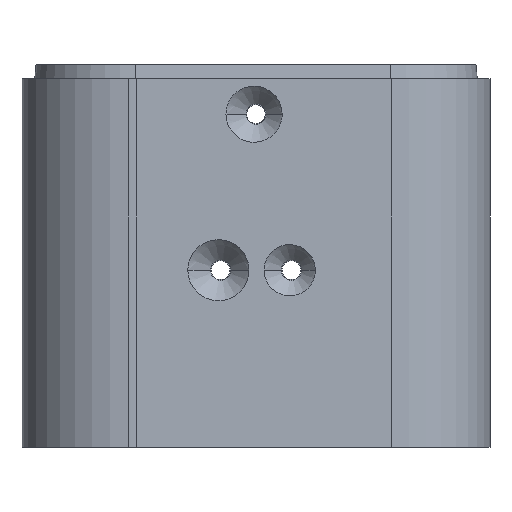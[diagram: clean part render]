
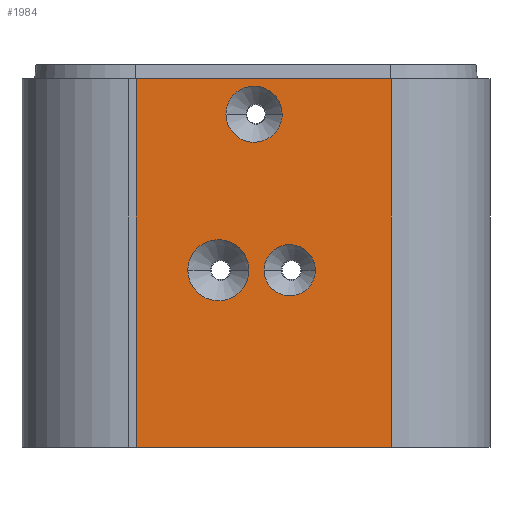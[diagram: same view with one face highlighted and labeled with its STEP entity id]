
A CAD part, left-side view. The second image highlights one B-rep face of the part: STEP entity #1984.
In plain terms, the highlighted planar face has unit normal (-0.998, -0.069, 0).
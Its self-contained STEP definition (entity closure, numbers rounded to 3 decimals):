
#44 = EDGE_CURVE ( 'NONE', #4079, #3898, #3415, .T. ) ;
#65 = DIRECTION ( 'NONE',  ( 0.069, -0.998, 0. ) ) ;
#209 = DIRECTION ( 'NONE',  ( 0., 0., -1. ) ) ;
#222 = EDGE_LOOP ( 'NONE', ( #3842, #544, #612, #1788 ) ) ;
#240 = ORIENTED_EDGE ( 'NONE', *, *, #1112, .F. ) ;
#281 = EDGE_CURVE ( 'NONE', #3898, #4079, #2475, .T. ) ;
#325 = CARTESIAN_POINT ( 'NONE',  ( -39.188, 16.909, 0. ) ) ;
#336 = VERTEX_POINT ( 'NONE', #1947 ) ;
#342 =( BOUNDED_CURVE ( )  B_SPLINE_CURVE ( 3, ( #2044, #444, #2321, #401 ),
 .UNSPECIFIED., .F., .F. ) 
 B_SPLINE_CURVE_WITH_KNOTS ( ( 4, 4 ),
 ( 0., 3.142 ),
 .UNSPECIFIED. ) 
 CURVE ( )  GEOMETRIC_REPRESENTATION_ITEM ( )  RATIONAL_B_SPLINE_CURVE ( ( 1., 0.333, 0.333, 1. ) ) 
 REPRESENTATION_ITEM ( '' )  );
#401 = CARTESIAN_POINT ( 'NONE',  ( -38.088, 0.987, 25. ) ) ;
#444 = CARTESIAN_POINT ( 'NONE',  ( -38.683, 9.608, 16.399 ) ) ;
#453 = VECTOR ( 'NONE', #2255, 1000. ) ;
#497 = CARTESIAN_POINT ( 'NONE',  ( -38.683, 9.608, 25. ) ) ;
#544 = ORIENTED_EDGE ( 'NONE', *, *, #677, .F. ) ;
#556 = PLANE ( 'NONE',  #2555 ) ;
#612 = ORIENTED_EDGE ( 'NONE', *, *, #3868, .F. ) ;
#677 = EDGE_CURVE ( 'NONE', #1641, #744, #1711, .T. ) ;
#734 = CARTESIAN_POINT ( 'NONE',  ( -37.441, -8.366, 25. ) ) ;
#744 = VERTEX_POINT ( 'NONE', #3186 ) ;
#747 = FACE_BOUND ( 'NONE', #2596, .T. ) ;
#774 = CARTESIAN_POINT ( 'NONE',  ( -37.764, -3.689, 39.092 ) ) ;
#856 =( BOUNDED_CURVE ( )  B_SPLINE_CURVE ( 3, ( #734, #3982, #1460, #3037 ),
 .UNSPECIFIED., .F., .F. ) 
 B_SPLINE_CURVE_WITH_KNOTS ( ( 4, 4 ),
 ( 3.142, 6.283 ),
 .UNSPECIFIED. ) 
 CURVE ( )  GEOMETRIC_REPRESENTATION_ITEM ( )  RATIONAL_B_SPLINE_CURVE ( ( 1., 0.333, 0.333, 1. ) ) 
 REPRESENTATION_ITEM ( '' )  );
#894 = CARTESIAN_POINT ( 'NONE',  ( -37.764, -3.689, 47. ) ) ;
#911 = CARTESIAN_POINT ( 'NONE',  ( -37.441, -8.366, 25. ) ) ;
#979 = ORIENTED_EDGE ( 'NONE', *, *, #3526, .F. ) ;
#1112 = EDGE_CURVE ( 'NONE', #3778, #1236, #2266, .T. ) ;
#1162 = CARTESIAN_POINT ( 'NONE',  ( -38.683, 9.608, 33.601 ) ) ;
#1236 = VERTEX_POINT ( 'NONE', #2569 ) ;
#1240 = CARTESIAN_POINT ( 'NONE',  ( -39.188, 16.909, 0. ) ) ;
#1241 = LINE ( 'NONE', #3612, #1481 ) ;
#1345 = EDGE_CURVE ( 'NONE', #1236, #3778, #856, .T. ) ;
#1460 = CARTESIAN_POINT ( 'NONE',  ( -37.941, -1.134, 32.215 ) ) ;
#1481 = VECTOR ( 'NONE', #65, 1000. ) ;
#1497 = CARTESIAN_POINT ( 'NONE',  ( -39.188, 16.909, 52. ) ) ;
#1522 = CARTESIAN_POINT ( 'NONE',  ( -37.941, -1.134, 25. ) ) ;
#1523 = DIRECTION ( 'NONE',  ( 0.998, 0.069, 0. ) ) ;
#1535 = CARTESIAN_POINT ( 'NONE',  ( -37.941, -1.134, 17.785 ) ) ;
#1566 = CARTESIAN_POINT ( 'NONE',  ( -37.941, -1.134, 25. ) ) ;
#1641 = VERTEX_POINT ( 'NONE', #3282 ) ;
#1693 = CARTESIAN_POINT ( 'NONE',  ( -38.312, 4.237, 47. ) ) ;
#1707 = CARTESIAN_POINT ( 'NONE',  ( -38.088, 0.987, 25. ) ) ;
#1711 = LINE ( 'NONE', #2765, #3339 ) ;
#1788 = ORIENTED_EDGE ( 'NONE', *, *, #2054, .T. ) ;
#1801 =( BOUNDED_CURVE ( )  B_SPLINE_CURVE ( 3, ( #3950, #2353, #1162, #497 ),
 .UNSPECIFIED., .F., .F. ) 
 B_SPLINE_CURVE_WITH_KNOTS ( ( 4, 4 ),
 ( 3.142, 6.283 ),
 .UNSPECIFIED. ) 
 CURVE ( )  GEOMETRIC_REPRESENTATION_ITEM ( )  RATIONAL_B_SPLINE_CURVE ( ( 1., 0.333, 0.333, 1. ) ) 
 REPRESENTATION_ITEM ( '' )  );
#1840 = DIRECTION ( 'NONE',  ( 0., 0., -1. ) ) ;
#1855 = CARTESIAN_POINT ( 'NONE',  ( -37.441, -8.366, 17.785 ) ) ;
#1897 = CARTESIAN_POINT ( 'NONE',  ( -39.188, 16.909, 52. ) ) ;
#1908 = ORIENTED_EDGE ( 'NONE', *, *, #1345, .F. ) ;
#1947 = CARTESIAN_POINT ( 'NONE',  ( -38.683, 9.608, 25. ) ) ;
#1984 = ADVANCED_FACE ( 'NONE', ( #747, #3632, #3730, #2199 ), #556, .F. ) ;
#2044 = CARTESIAN_POINT ( 'NONE',  ( -38.683, 9.608, 25. ) ) ;
#2054 = EDGE_CURVE ( 'NONE', #3788, #3743, #2296, .T. ) ;
#2199 = FACE_OUTER_BOUND ( 'NONE', #222, .T. ) ;
#2255 = DIRECTION ( 'NONE',  ( 0.069, -0.998, 0. ) ) ;
#2266 =( BOUNDED_CURVE ( )  B_SPLINE_CURVE ( 3, ( #1522, #1535, #1855, #911 ),
 .UNSPECIFIED., .F., .F. ) 
 B_SPLINE_CURVE_WITH_KNOTS ( ( 4, 4 ),
 ( 0., 3.142 ),
 .UNSPECIFIED. ) 
 CURVE ( )  GEOMETRIC_REPRESENTATION_ITEM ( )  RATIONAL_B_SPLINE_CURVE ( ( 1., 0.333, 0.333, 1. ) ) 
 REPRESENTATION_ITEM ( '' )  );
#2296 = LINE ( 'NONE', #2474, #3264 ) ;
#2321 = CARTESIAN_POINT ( 'NONE',  ( -38.088, 0.987, 16.399 ) ) ;
#2353 = CARTESIAN_POINT ( 'NONE',  ( -38.088, 0.987, 33.601 ) ) ;
#2361 = CARTESIAN_POINT ( 'NONE',  ( -38.312, 4.237, 39.092 ) ) ;
#2436 = EDGE_CURVE ( 'NONE', #336, #4042, #342, .T. ) ;
#2459 = CARTESIAN_POINT ( 'NONE',  ( -37.764, -3.689, 54.908 ) ) ;
#2474 = CARTESIAN_POINT ( 'NONE',  ( -39.188, 16.909, 52. ) ) ;
#2475 =( BOUNDED_CURVE ( )  B_SPLINE_CURVE ( 3, ( #894, #2459, #3236, #2579 ),
 .UNSPECIFIED., .F., .F. ) 
 B_SPLINE_CURVE_WITH_KNOTS ( ( 4, 4 ),
 ( 3.142, 6.283 ),
 .UNSPECIFIED. ) 
 CURVE ( )  GEOMETRIC_REPRESENTATION_ITEM ( )  RATIONAL_B_SPLINE_CURVE ( ( 1., 0.333, 0.333, 1. ) ) 
 REPRESENTATION_ITEM ( '' )  );
#2555 = AXIS2_PLACEMENT_3D ( 'NONE', #1497, #1523, #2831 ) ;
#2569 = CARTESIAN_POINT ( 'NONE',  ( -37.441, -8.366, 25. ) ) ;
#2579 = CARTESIAN_POINT ( 'NONE',  ( -38.312, 4.237, 47. ) ) ;
#2596 = EDGE_LOOP ( 'NONE', ( #3405, #2711 ) ) ;
#2660 = EDGE_LOOP ( 'NONE', ( #3444, #979 ) ) ;
#2676 = CARTESIAN_POINT ( 'NONE',  ( -37.764, -3.689, 47. ) ) ;
#2711 = ORIENTED_EDGE ( 'NONE', *, *, #281, .F. ) ;
#2765 = CARTESIAN_POINT ( 'NONE',  ( -36.7, -19.091, 52. ) ) ;
#2831 = DIRECTION ( 'NONE',  ( -0.069, 0.998, 0. ) ) ;
#2850 = EDGE_LOOP ( 'NONE', ( #240, #1908 ) ) ;
#3037 = CARTESIAN_POINT ( 'NONE',  ( -37.941, -1.134, 25. ) ) ;
#3186 = CARTESIAN_POINT ( 'NONE',  ( -36.7, -19.091, 0. ) ) ;
#3236 = CARTESIAN_POINT ( 'NONE',  ( -38.312, 4.237, 54.908 ) ) ;
#3264 = VECTOR ( 'NONE', #1840, 1000. ) ;
#3282 = CARTESIAN_POINT ( 'NONE',  ( -36.7, -19.091, 52. ) ) ;
#3325 = LINE ( 'NONE', #1240, #453 ) ;
#3339 = VECTOR ( 'NONE', #209, 1000. ) ;
#3364 = EDGE_CURVE ( 'NONE', #3743, #744, #3325, .T. ) ;
#3405 = ORIENTED_EDGE ( 'NONE', *, *, #44, .F. ) ;
#3415 =( BOUNDED_CURVE ( )  B_SPLINE_CURVE ( 3, ( #3664, #2361, #774, #2676 ),
 .UNSPECIFIED., .F., .F. ) 
 B_SPLINE_CURVE_WITH_KNOTS ( ( 4, 4 ),
 ( 0., 3.142 ),
 .UNSPECIFIED. ) 
 CURVE ( )  GEOMETRIC_REPRESENTATION_ITEM ( )  RATIONAL_B_SPLINE_CURVE ( ( 1., 0.333, 0.333, 1. ) ) 
 REPRESENTATION_ITEM ( '' )  );
#3444 = ORIENTED_EDGE ( 'NONE', *, *, #2436, .F. ) ;
#3526 = EDGE_CURVE ( 'NONE', #4042, #336, #1801, .T. ) ;
#3612 = CARTESIAN_POINT ( 'NONE',  ( -39.188, 16.909, 52. ) ) ;
#3625 = CARTESIAN_POINT ( 'NONE',  ( -37.764, -3.689, 47. ) ) ;
#3632 = FACE_BOUND ( 'NONE', #2850, .T. ) ;
#3664 = CARTESIAN_POINT ( 'NONE',  ( -38.312, 4.237, 47. ) ) ;
#3730 = FACE_BOUND ( 'NONE', #2660, .T. ) ;
#3743 = VERTEX_POINT ( 'NONE', #325 ) ;
#3778 = VERTEX_POINT ( 'NONE', #1566 ) ;
#3788 = VERTEX_POINT ( 'NONE', #1897 ) ;
#3842 = ORIENTED_EDGE ( 'NONE', *, *, #3364, .T. ) ;
#3868 = EDGE_CURVE ( 'NONE', #3788, #1641, #1241, .T. ) ;
#3898 = VERTEX_POINT ( 'NONE', #3625 ) ;
#3950 = CARTESIAN_POINT ( 'NONE',  ( -38.088, 0.987, 25. ) ) ;
#3982 = CARTESIAN_POINT ( 'NONE',  ( -37.441, -8.366, 32.215 ) ) ;
#4042 = VERTEX_POINT ( 'NONE', #1707 ) ;
#4079 = VERTEX_POINT ( 'NONE', #1693 ) ;
